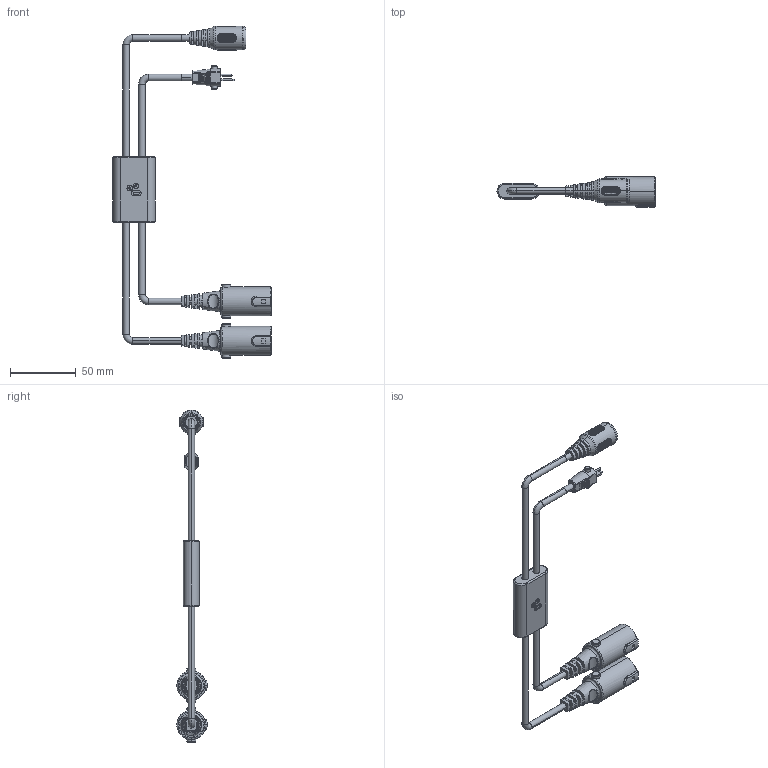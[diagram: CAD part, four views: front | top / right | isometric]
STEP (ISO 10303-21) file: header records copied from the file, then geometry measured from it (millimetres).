
FILE_DESCRIPTION (( 'STEP AP203' ), '1' );
FILE_NAME ('3D_TYC3.STEP', '2018-06-12T09:31:45', ( '' ), ( '' ), 'SwSTEP 2.0', 'SolidWorks 2015', '' );
FILE_SCHEMA (( 'CONFIG_CONTROL_DESIGN' ));
Length unit declared in the file: millimetre
Products named in the file (1): 3D_TYC3
Bounding box: 120 x 23 x 252.15 mm (x, y, z)
Volume: 61548.8 mm3; surface area: 33839.3 mm2
Topology: 7 solids, 7 shells, 1621 faces, 3927 edges, 2506 vertices
Faces by surface type: cylinder 1094, plane 379, torus 48, cone 42, bspline 32, sphere 26
Entity records: 51813 total; most frequent: CARTESIAN_POINT 16434, ORIENTED_EDGE 7846, DIRECTION 6721, EDGE_CURVE 3923, VERTEX_POINT 2504, AXIS2_PLACEMENT_3D 2430, VECTOR 1861, LINE 1861
